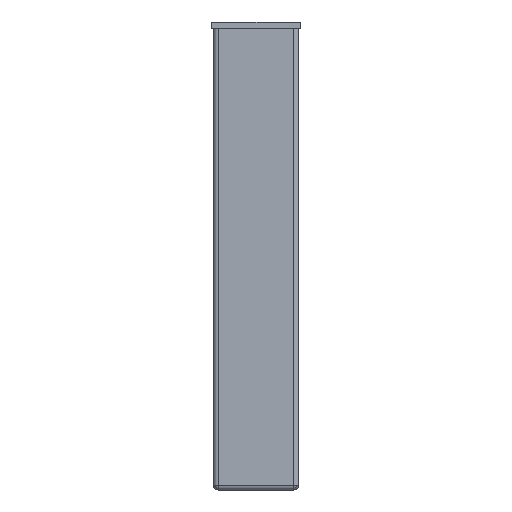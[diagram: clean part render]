
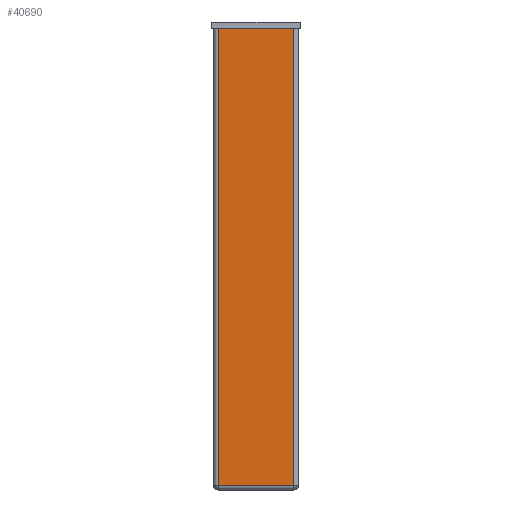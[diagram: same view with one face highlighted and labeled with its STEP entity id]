
A CAD part, left-side view. The second image highlights one B-rep face of the part: STEP entity #40690.
In plain terms, the highlighted planar face has unit normal (-1, 0, 0).
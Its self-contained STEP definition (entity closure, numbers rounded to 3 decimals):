
#40687 = ORIENTED_EDGE ( 'NONE', *, *, #40705, .T. ) ;
#40690 = ADVANCED_FACE ( 'NONE', ( #51859 ), #51992, .F. ) ;
#40692 = ORIENTED_EDGE ( 'NONE', *, *, #40696, .F. ) ;
#40694 = EDGE_CURVE ( 'NONE', #40738, #40764, #51864, .T. ) ;
#40696 = EDGE_CURVE ( 'NONE', #40738, #40773, #51849, .T. ) ;
#40700 = ORIENTED_EDGE ( 'NONE', *, *, #40694, .T. ) ;
#40701 = EDGE_CURVE ( 'NONE', #40764, #41231, #51966, .T. ) ;
#40705 = EDGE_CURVE ( 'NONE', #41231, #40773, #51958, .T. ) ;
#40737 = EDGE_LOOP ( 'NONE', ( #40692, #40700, #40777, #40687 ) ) ;
#40738 = VERTEX_POINT ( 'NONE', #47744 ) ;
#40764 = VERTEX_POINT ( 'NONE', #47742 ) ;
#40773 = VERTEX_POINT ( 'NONE', #47732 ) ;
#40777 = ORIENTED_EDGE ( 'NONE', *, *, #40701, .T. ) ;
#41231 = VERTEX_POINT ( 'NONE', #48638 ) ;
#47732 = CARTESIAN_POINT ( 'NONE',  ( -215.5, -18.7, 113.85 ) ) ;
#47742 = CARTESIAN_POINT ( 'NONE',  ( -215.5, 18.7, -111.45 ) ) ;
#47744 = CARTESIAN_POINT ( 'NONE',  ( -215.5, 18.7, 113.85 ) ) ;
#48638 = CARTESIAN_POINT ( 'NONE',  ( -215.5, -18.7, -111.45 ) ) ;
#51846 = VECTOR ( 'NONE', #51923, 1000. ) ;
#51847 = CARTESIAN_POINT ( 'NONE',  ( -215.5, 21.1, 113.85 ) ) ;
#51849 = LINE ( 'NONE', #51847, #51846 ) ;
#51850 = DIRECTION ( 'NONE',  ( 0., 0., -1. ) ) ;
#51851 = VECTOR ( 'NONE', #51850, 1000. ) ;
#51852 = CARTESIAN_POINT ( 'NONE',  ( -215.5, 18.7, 0. ) ) ;
#51854 = DIRECTION ( 'NONE',  ( 0., 0., -1. ) ) ;
#51855 = DIRECTION ( 'NONE',  ( 1., 0., 0. ) ) ;
#51856 = CARTESIAN_POINT ( 'NONE',  ( -215.5, 0., 0. ) ) ;
#51857 = AXIS2_PLACEMENT_3D ( 'NONE', #51856, #51855, #51854 ) ;
#51859 = FACE_OUTER_BOUND ( 'NONE', #40737, .T. ) ;
#51864 = LINE ( 'NONE', #51852, #51851 ) ;
#51923 = DIRECTION ( 'NONE',  ( 0., -1., 0. ) ) ;
#51955 = DIRECTION ( 'NONE',  ( 0., 0., 1. ) ) ;
#51956 = VECTOR ( 'NONE', #51955, 1000. ) ;
#51957 = CARTESIAN_POINT ( 'NONE',  ( -215.5, -18.7, 0. ) ) ;
#51958 = LINE ( 'NONE', #51957, #51956 ) ;
#51963 = DIRECTION ( 'NONE',  ( 0., -1., 0. ) ) ;
#51964 = VECTOR ( 'NONE', #51963, 1000. ) ;
#51965 = CARTESIAN_POINT ( 'NONE',  ( -215.5, 0., -111.45 ) ) ;
#51966 = LINE ( 'NONE', #51965, #51964 ) ;
#51992 = PLANE ( 'NONE',  #51857 ) ;
